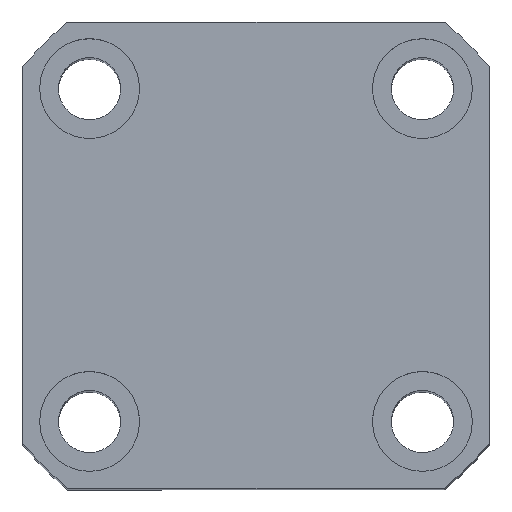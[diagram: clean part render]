
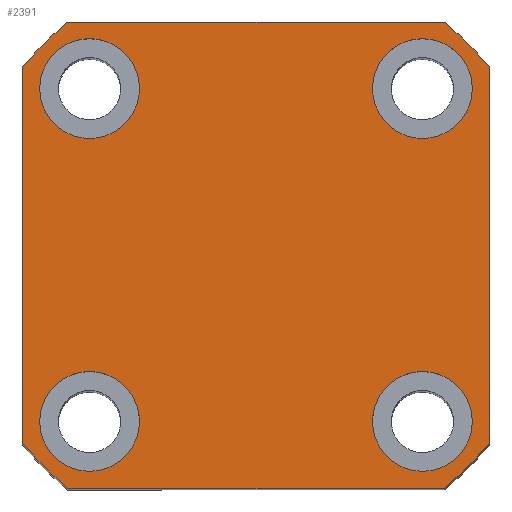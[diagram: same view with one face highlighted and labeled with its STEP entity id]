
A CAD part, top view. The second image highlights one B-rep face of the part: STEP entity #2391.
In plain terms, the highlighted planar face has unit normal (0, 0, 1).
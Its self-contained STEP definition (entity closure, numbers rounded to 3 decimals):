
#10 = AXIS2_PLACEMENT_3D ( 'NONE', #1222, #1257, #139 ) ;
#22 = CARTESIAN_POINT ( 'NONE',  ( 16.971, 21., 103. ) ) ;
#57 = VERTEX_POINT ( 'NONE', #1901 ) ;
#139 = DIRECTION ( 'NONE',  ( 1., 0., 0. ) ) ;
#149 = CARTESIAN_POINT ( 'NONE',  ( -10.5, 15.002, 103. ) ) ;
#167 = DIRECTION ( 'NONE',  ( 0., 0., 1. ) ) ;
#169 = CARTESIAN_POINT ( 'NONE',  ( 21., 21., 103. ) ) ;
#203 = CARTESIAN_POINT ( 'NONE',  ( 0., 0., 103. ) ) ;
#225 = CIRCLE ( 'NONE', #5365, 4.5 ) ;
#252 = CIRCLE ( 'NONE', #6932, 4.5 ) ;
#386 = ORIENTED_EDGE ( 'NONE', *, *, #9807, .T. ) ;
#404 = DIRECTION ( 'NONE',  ( 0., 0., 1. ) ) ;
#526 = VECTOR ( 'NONE', #7096, 1000. ) ;
#537 = ORIENTED_EDGE ( 'NONE', *, *, #8598, .F. ) ;
#582 = CIRCLE ( 'NONE', #5691, 4.5 ) ;
#643 = ORIENTED_EDGE ( 'NONE', *, *, #7816, .T. ) ;
#708 = CARTESIAN_POINT ( 'NONE',  ( 0., 0., 103. ) ) ;
#741 = CARTESIAN_POINT ( 'NONE',  ( 0., 0., 103. ) ) ;
#849 = AXIS2_PLACEMENT_3D ( 'NONE', #5375, #404, #6202 ) ;
#945 = CARTESIAN_POINT ( 'NONE',  ( 10.5, 15., 103. ) ) ;
#983 = ORIENTED_EDGE ( 'NONE', *, *, #5418, .F. ) ;
#1005 = DIRECTION ( 'NONE',  ( 1., 0., 0. ) ) ;
#1024 = ORIENTED_EDGE ( 'NONE', *, *, #6519, .F. ) ;
#1139 = FACE_OUTER_BOUND ( 'NONE', #5148, .T. ) ;
#1161 = ORIENTED_EDGE ( 'NONE', *, *, #7876, .T. ) ;
#1176 = DIRECTION ( 'NONE',  ( 0., 0., 1. ) ) ;
#1206 = LINE ( 'NONE', #3252, #7551 ) ;
#1222 = CARTESIAN_POINT ( 'NONE',  ( 15., 15., 103. ) ) ;
#1243 = AXIS2_PLACEMENT_3D ( 'NONE', #6161, #1176, #6964 ) ;
#1249 = AXIS2_PLACEMENT_3D ( 'NONE', #8967, #4033, #9776 ) ;
#1257 = DIRECTION ( 'NONE',  ( 0., 0., 1. ) ) ;
#1306 = CARTESIAN_POINT ( 'NONE',  ( 21., -16.971, 103. ) ) ;
#1391 = VECTOR ( 'NONE', #7163, 1000. ) ;
#1409 = EDGE_CURVE ( 'NONE', #4566, #9949, #3914, .T. ) ;
#1434 = CARTESIAN_POINT ( 'NONE',  ( 19.5, 15., 103. ) ) ;
#1498 = AXIS2_PLACEMENT_3D ( 'NONE', #7608, #2675, #8440 ) ;
#1513 = DIRECTION ( 'NONE',  ( 1., 0., 0. ) ) ;
#1551 = DIRECTION ( 'NONE',  ( 1., 0., 0. ) ) ;
#1584 = EDGE_LOOP ( 'NONE', ( #9340, #1024 ) ) ;
#1837 = VECTOR ( 'NONE', #2716, 1000. ) ;
#1901 = CARTESIAN_POINT ( 'NONE',  ( 16.971, -21., 103. ) ) ;
#1904 = CIRCLE ( 'NONE', #2955, 27. ) ;
#2130 = AXIS2_PLACEMENT_3D ( 'NONE', #708, #2291, #1513 ) ;
#2157 = CARTESIAN_POINT ( 'NONE',  ( 19.5, -14.998, 103. ) ) ;
#2286 = EDGE_CURVE ( 'NONE', #7342, #57, #6083, .T. ) ;
#2291 = DIRECTION ( 'NONE',  ( 0., 0., 1. ) ) ;
#2391 = ADVANCED_FACE ( 'NONE', ( #7748, #7487, #5570, #9905, #1139 ), #10557, .T. ) ;
#2523 = VERTEX_POINT ( 'NONE', #149 ) ;
#2675 = DIRECTION ( 'NONE',  ( 0., 0., 1. ) ) ;
#2716 = DIRECTION ( 'NONE',  ( 0., 1., 0. ) ) ;
#2730 = LINE ( 'NONE', #6293, #526 ) ;
#2772 = VERTEX_POINT ( 'NONE', #2157 ) ;
#2774 = EDGE_LOOP ( 'NONE', ( #3116, #5834 ) ) ;
#2781 = EDGE_CURVE ( 'NONE', #2772, #10315, #252, .T. ) ;
#2785 = VERTEX_POINT ( 'NONE', #3780 ) ;
#2849 = CIRCLE ( 'NONE', #5720, 4.5 ) ;
#2915 = CARTESIAN_POINT ( 'NONE',  ( 0., 0., 103. ) ) ;
#2955 = AXIS2_PLACEMENT_3D ( 'NONE', #741, #6542, #1551 ) ;
#3060 = CARTESIAN_POINT ( 'NONE',  ( -21., -21., 103. ) ) ;
#3116 = ORIENTED_EDGE ( 'NONE', *, *, #6440, .F. ) ;
#3252 = CARTESIAN_POINT ( 'NONE',  ( -21., 21., 103. ) ) ;
#3314 = EDGE_LOOP ( 'NONE', ( #9683, #983 ) ) ;
#3398 = CARTESIAN_POINT ( 'NONE',  ( -21., 16.971, 103. ) ) ;
#3591 = DIRECTION ( 'NONE',  ( 0., 0., 1. ) ) ;
#3741 = DIRECTION ( 'NONE',  ( 1., 0., 0. ) ) ;
#3780 = CARTESIAN_POINT ( 'NONE',  ( -10.5, -14.998, 103. ) ) ;
#3849 = CARTESIAN_POINT ( 'NONE',  ( 15., -14.998, 103. ) ) ;
#3914 = CIRCLE ( 'NONE', #10, 4.5 ) ;
#3956 = VERTEX_POINT ( 'NONE', #3398 ) ;
#4033 = DIRECTION ( 'NONE',  ( 0., 0., 1. ) ) ;
#4060 = LINE ( 'NONE', #169, #1837 ) ;
#4096 = DIRECTION ( 'NONE',  ( -1., 0., 0. ) ) ;
#4208 = EDGE_CURVE ( 'NONE', #9591, #3956, #6191, .T. ) ;
#4393 = EDGE_LOOP ( 'NONE', ( #9805, #537 ) ) ;
#4426 = VERTEX_POINT ( 'NONE', #22 ) ;
#4566 = VERTEX_POINT ( 'NONE', #945 ) ;
#4591 = DIRECTION ( 'NONE',  ( 0., 0., 1. ) ) ;
#4678 = DIRECTION ( 'NONE',  ( 1., 0., 0. ) ) ;
#5065 = EDGE_CURVE ( 'NONE', #2523, #7245, #225, .T. ) ;
#5125 = CARTESIAN_POINT ( 'NONE',  ( -15., -14.998, 103. ) ) ;
#5148 = EDGE_LOOP ( 'NONE', ( #5183, #9023, #643, #10428, #386, #1161, #8896, #8265 ) ) ;
#5183 = ORIENTED_EDGE ( 'NONE', *, *, #7193, .T. ) ;
#5365 = AXIS2_PLACEMENT_3D ( 'NONE', #8509, #3591, #9342 ) ;
#5375 = CARTESIAN_POINT ( 'NONE',  ( -15., -14.998, 103. ) ) ;
#5418 = EDGE_CURVE ( 'NONE', #10315, #2772, #7439, .T. ) ;
#5570 = FACE_BOUND ( 'NONE', #3314, .T. ) ;
#5691 = AXIS2_PLACEMENT_3D ( 'NONE', #9514, #4591, #10325 ) ;
#5720 = AXIS2_PLACEMENT_3D ( 'NONE', #5125, #167, #5943 ) ;
#5791 = CARTESIAN_POINT ( 'NONE',  ( -21., -16.971, 103. ) ) ;
#5834 = ORIENTED_EDGE ( 'NONE', *, *, #1409, .F. ) ;
#5943 = DIRECTION ( 'NONE',  ( 1., 0., 0. ) ) ;
#5979 = DIRECTION ( 'NONE',  ( 0., 0., 1. ) ) ;
#6083 = LINE ( 'NONE', #3060, #1391 ) ;
#6117 = CIRCLE ( 'NONE', #849, 4.5 ) ;
#6158 = CARTESIAN_POINT ( 'NONE',  ( -16.971, -21., 103. ) ) ;
#6161 = CARTESIAN_POINT ( 'NONE',  ( 15., 15., 103. ) ) ;
#6191 = CIRCLE ( 'NONE', #6518, 27. ) ;
#6202 = DIRECTION ( 'NONE',  ( 1., 0., 0. ) ) ;
#6292 = AXIS2_PLACEMENT_3D ( 'NONE', #203, #5979, #1005 ) ;
#6293 = CARTESIAN_POINT ( 'NONE',  ( -21., 21., 103. ) ) ;
#6440 = EDGE_CURVE ( 'NONE', #9949, #4566, #7177, .T. ) ;
#6518 = AXIS2_PLACEMENT_3D ( 'NONE', #2915, #8671, #3741 ) ;
#6519 = EDGE_CURVE ( 'NONE', #7245, #2523, #582, .T. ) ;
#6542 = DIRECTION ( 'NONE',  ( 0., 0., 1. ) ) ;
#6932 = AXIS2_PLACEMENT_3D ( 'NONE', #3849, #9600, #4678 ) ;
#6964 = DIRECTION ( 'NONE',  ( 1., 0., 0. ) ) ;
#7096 = DIRECTION ( 'NONE',  ( 0., -1., 0. ) ) ;
#7163 = DIRECTION ( 'NONE',  ( 1., 0., 0. ) ) ;
#7177 = CIRCLE ( 'NONE', #1243, 4.5 ) ;
#7193 = EDGE_CURVE ( 'NONE', #9811, #8445, #4060, .T. ) ;
#7245 = VERTEX_POINT ( 'NONE', #10111 ) ;
#7342 = VERTEX_POINT ( 'NONE', #6158 ) ;
#7439 = CIRCLE ( 'NONE', #1249, 4.5 ) ;
#7487 = FACE_BOUND ( 'NONE', #4393, .T. ) ;
#7551 = VECTOR ( 'NONE', #4096, 1000. ) ;
#7608 = CARTESIAN_POINT ( 'NONE',  ( 0., 0., 103. ) ) ;
#7748 = FACE_BOUND ( 'NONE', #1584, .T. ) ;
#7816 = EDGE_CURVE ( 'NONE', #4426, #9591, #1206, .T. ) ;
#7876 = EDGE_CURVE ( 'NONE', #8973, #7342, #9716, .T. ) ;
#8265 = ORIENTED_EDGE ( 'NONE', *, *, #10394, .T. ) ;
#8440 = DIRECTION ( 'NONE',  ( 1., 0., 0. ) ) ;
#8445 = VERTEX_POINT ( 'NONE', #9604 ) ;
#8509 = CARTESIAN_POINT ( 'NONE',  ( -15., 15.002, 103. ) ) ;
#8598 = EDGE_CURVE ( 'NONE', #8915, #2785, #6117, .T. ) ;
#8671 = DIRECTION ( 'NONE',  ( 0., 0., 1. ) ) ;
#8896 = ORIENTED_EDGE ( 'NONE', *, *, #2286, .T. ) ;
#8915 = VERTEX_POINT ( 'NONE', #9784 ) ;
#8967 = CARTESIAN_POINT ( 'NONE',  ( 15., -14.998, 103. ) ) ;
#8973 = VERTEX_POINT ( 'NONE', #5791 ) ;
#9023 = ORIENTED_EDGE ( 'NONE', *, *, #10070, .T. ) ;
#9163 = CIRCLE ( 'NONE', #6292, 27. ) ;
#9340 = ORIENTED_EDGE ( 'NONE', *, *, #5065, .F. ) ;
#9342 = DIRECTION ( 'NONE',  ( 1., 0., 0. ) ) ;
#9514 = CARTESIAN_POINT ( 'NONE',  ( -15., 15.002, 103. ) ) ;
#9591 = VERTEX_POINT ( 'NONE', #9993 ) ;
#9600 = DIRECTION ( 'NONE',  ( 0., 0., 1. ) ) ;
#9604 = CARTESIAN_POINT ( 'NONE',  ( 21., 16.971, 103. ) ) ;
#9683 = ORIENTED_EDGE ( 'NONE', *, *, #2781, .F. ) ;
#9716 = CIRCLE ( 'NONE', #1498, 27. ) ;
#9776 = DIRECTION ( 'NONE',  ( 1., 0., 0. ) ) ;
#9784 = CARTESIAN_POINT ( 'NONE',  ( -19.5, -14.998, 103. ) ) ;
#9805 = ORIENTED_EDGE ( 'NONE', *, *, #10343, .F. ) ;
#9807 = EDGE_CURVE ( 'NONE', #3956, #8973, #2730, .T. ) ;
#9811 = VERTEX_POINT ( 'NONE', #1306 ) ;
#9905 = FACE_BOUND ( 'NONE', #2774, .T. ) ;
#9949 = VERTEX_POINT ( 'NONE', #1434 ) ;
#9975 = CARTESIAN_POINT ( 'NONE',  ( 10.5, -14.998, 103. ) ) ;
#9993 = CARTESIAN_POINT ( 'NONE',  ( -16.971, 21., 103. ) ) ;
#10070 = EDGE_CURVE ( 'NONE', #8445, #4426, #1904, .T. ) ;
#10111 = CARTESIAN_POINT ( 'NONE',  ( -19.5, 15.002, 103. ) ) ;
#10315 = VERTEX_POINT ( 'NONE', #9975 ) ;
#10325 = DIRECTION ( 'NONE',  ( 1., 0., 0. ) ) ;
#10343 = EDGE_CURVE ( 'NONE', #2785, #8915, #2849, .T. ) ;
#10394 = EDGE_CURVE ( 'NONE', #57, #9811, #9163, .T. ) ;
#10428 = ORIENTED_EDGE ( 'NONE', *, *, #4208, .T. ) ;
#10557 = PLANE ( 'NONE',  #2130 ) ;
